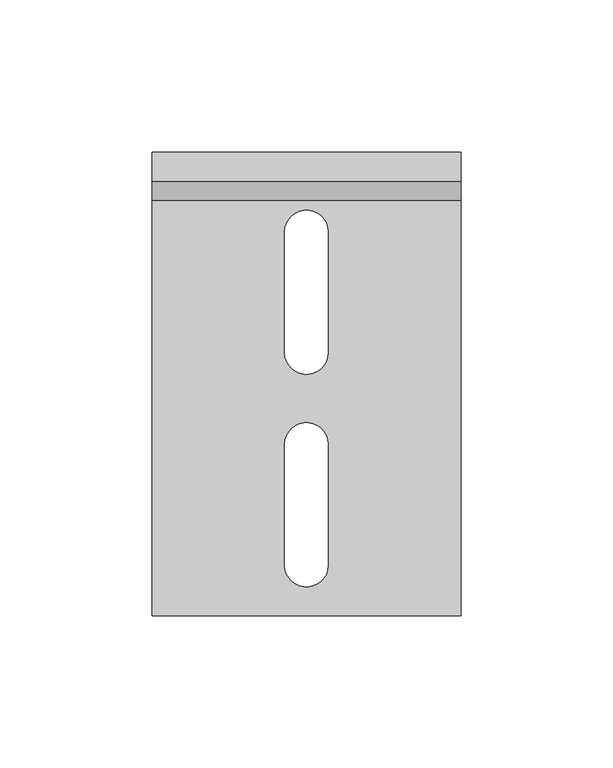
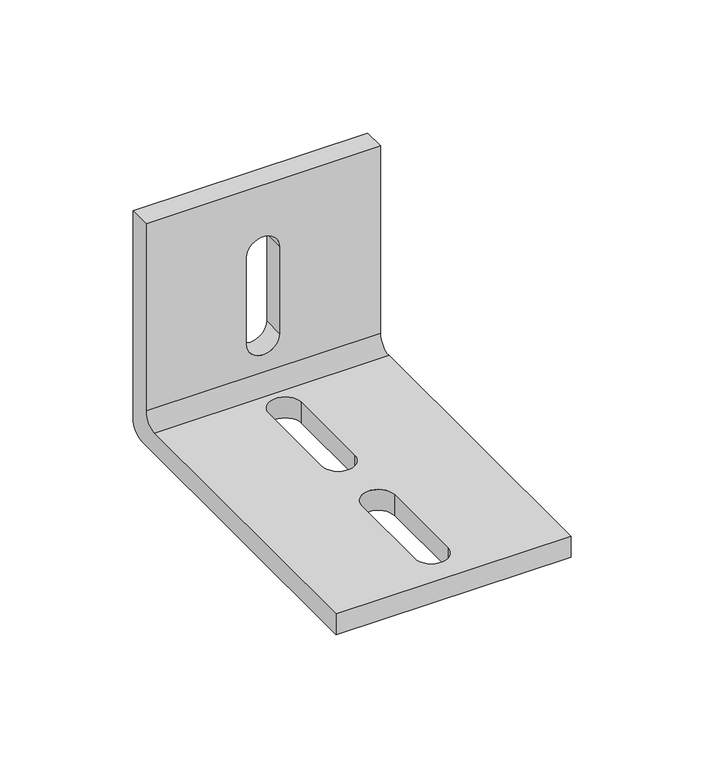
"""IFC4 building model written with IfcOpenShell, lengths in millimetres: proxy geometry, 14NSF-A14 : 14NSF-A14."""

from ifc_helpers import new_model, si_unit, frame, origin, place, context, project, spatial, polyline, circle_curve, source, transform, mapped, element, save
from ifc_brep_helpers import plane_surface, cylinder_surface, revolved_surface, advanced_brep


def generic_models_f0b3e273(model_context):
    return source(origin(), model_context, "Body", "AdvancedBrep", [
        advanced_brep(
        [(50.8, -152.4, 0.0), (50.8, -6.35, 0.0), (50.8, 0.0, 6.35), (50.8, 0.0, 101.6), (50.8, -9.525, 101.6), (50.8, -9.525, 15.875), (50.8, -15.875, 9.525), (50.8, -152.4, 9.525), (-50.8, -6.35, 0.0), (-50.8, -152.4, 0.0), (-50.8, -152.4, 9.525), (-50.8, -15.875, 9.525), (-50.8, -9.525, 15.875), (-50.8, -9.525, 101.6), (-50.8, 0.0, 101.6), (-50.8, 0.0, 6.35), (7.14375, -65.8874249, 0.0), (7.14375, -26.1875751, 0.0), (-7.14375, -26.1875751, 0.0), (-7.14375, -65.8874249, 0.0), (7.14375, -135.7374249, 0.0), (7.14375, -96.0375751, 0.0), (-7.14375, -96.0375751, 0.0), (-7.14375, -135.7374249, 0.0), (7.14375, 0.0, 30.9500751), (7.14375, 0.0, 70.6499249), (-7.14375, 0.0, 70.6499249), (-7.14375, 0.0, 30.9500751), (7.14375, -9.525, 70.6499249), (7.14375, -9.525, 30.9500751), (-7.14375, -9.525, 30.9500751), (-7.14375, -9.525, 70.6499249), (7.14375, -26.1875751, 9.525), (7.14375, -65.8874249, 9.525), (-7.14375, -65.8874249, 9.525), (-7.14375, -26.1875751, 9.525), (7.14375, -96.0375751, 9.525), (7.14375, -135.7374249, 9.525), (-7.14375, -135.7374249, 9.525), (-7.14375, -96.0375751, 9.525)],
        [
            (0, 1),
            (1, 2, circle_curve(frame((50.8, -6.35, 6.35), z_axis=(1.0, 0.0, 0.0), x_axis=(0.0, 1.0, 0.0)), 6.35)),
            (2, 3),
            (3, 4),
            (4, 5),
            (5, 6, circle_curve(frame((50.8, -15.875, 15.875), z_axis=(-1.0, 0.0, 0.0), x_axis=(0.0, 1.0, 0.0)), 6.35)),
            (6, 7),
            (7, 0),
            (8, 9),
            (9, 10),
            (10, 11),
            (11, 12, circle_curve(frame((-50.8, -15.875, 15.875), z_axis=(1.0, 0.0, 0.0), x_axis=(0.0, 1.0, 0.0)), 6.35)),
            (12, 13),
            (13, 14),
            (14, 15),
            (15, 8, circle_curve(frame((-50.8, -6.35, 6.35), z_axis=(-1.0, 0.0, 0.0), x_axis=(0.0, 1.0, 0.0)), 6.35)),
            (0, 9),
            (8, 1),
            (16, 17),
            (17, 18, circle_curve(frame((0.0, -26.1875751, 0.0), z_axis=(0.0, 0.0, 1.0), x_axis=(1.0, 0.0, 0.0)), 7.14375)),
            (18, 19),
            (19, 16, circle_curve(frame((0.0, -65.8874249, 0.0), z_axis=(0.0, 0.0, 1.0), x_axis=(1.0, 0.0, 0.0)), 7.14375)),
            (20, 21),
            (21, 22, circle_curve(frame((0.0, -96.0375751, 0.0), z_axis=(0.0, 0.0, 1.0), x_axis=(1.0, 0.0, 0.0)), 7.14375)),
            (22, 23),
            (23, 20, circle_curve(frame((0.0, -135.7374249, 0.0), z_axis=(0.0, 0.0, 1.0), x_axis=(1.0, 0.0, 0.0)), 7.14375)),
            (15, 2),
            (14, 3),
            (24, 25),
            (25, 26, circle_curve(frame((0.0, 0.0, 70.6499249), z_axis=(0.0, -1.0, 0.0), x_axis=(1.0, 0.0, 0.0)), 7.14375)),
            (26, 27),
            (27, 24, circle_curve(frame((0.0, 0.0, 30.9500751), z_axis=(0.0, -1.0, 0.0), x_axis=(1.0, 0.0, 0.0)), 7.14375)),
            (13, 4),
            (12, 5),
            (28, 29),
            (29, 30, circle_curve(frame((0.0, -9.525, 30.9500751), z_axis=(0.0, 1.0, 0.0), x_axis=(1.0, 0.0, 0.0)), 7.14375)),
            (30, 31),
            (31, 28, circle_curve(frame((0.0, -9.525, 70.6499249), z_axis=(0.0, 1.0, 0.0), x_axis=(1.0, 0.0, 0.0)), 7.14375)),
            (11, 6),
            (10, 7),
            (32, 33),
            (33, 34, circle_curve(frame((0.0, -65.8874249, 9.525), z_axis=(0.0, 0.0, -1.0), x_axis=(1.0, 0.0, 0.0)), 7.14375)),
            (34, 35),
            (35, 32, circle_curve(frame((0.0, -26.1875751, 9.525), z_axis=(0.0, 0.0, -1.0), x_axis=(1.0, 0.0, 0.0)), 7.14375)),
            (36, 37),
            (37, 38, circle_curve(frame((0.0, -135.7374249, 9.525), z_axis=(0.0, 0.0, -1.0), x_axis=(1.0, 0.0, 0.0)), 7.14375)),
            (38, 39),
            (39, 36, circle_curve(frame((0.0, -96.0375751, 9.525), z_axis=(0.0, 0.0, -1.0), x_axis=(1.0, 0.0, 0.0)), 7.14375)),
            (16, 33),
            (32, 17),
            (35, 18),
            (34, 19),
            (20, 37),
            (36, 21),
            (39, 22),
            (38, 23),
            (24, 29),
            (28, 25),
            (31, 26),
            (30, 27),
        ],
        [
            plane_surface(frame((50.8, -6.35, 0.0), z_axis=(1.0, 0.0, 0.0), x_axis=(0.0, 1.0, 0.0))),
            plane_surface(frame((-50.8, -6.35, 0.0), z_axis=(-1.0, 0.0, 0.0), x_axis=(0.0, -1.0, 0.0))),
            plane_surface(frame((50.8, -152.4, 0.0), z_axis=(0.0, 0.0, -1.0), x_axis=(-1.0, 0.0, 0.0))),
            cylinder_surface(frame((-50.8, -6.35, 6.35), z_axis=(1.0, 0.0, 0.0), x_axis=(0.0, 1.0, 0.0)), 6.35),
            plane_surface(frame((50.8, 0.0, 6.35), z_axis=(0.0, 1.0, 0.0), x_axis=(-1.0, 0.0, 0.0))),
            plane_surface(frame((50.8, 0.0, 101.6), z_axis=(0.0, 0.0, 1.0), x_axis=(-1.0, 0.0, 0.0))),
            plane_surface(frame((50.8, -9.525, 101.6), z_axis=(0.0, -1.0, 0.0), x_axis=(-1.0, 0.0, 0.0))),
            revolved_surface(polyline([(-50.8, -9.525, 15.875), (50.8, -9.525, 15.875)]), (-50.8, -15.875, 15.875), (-1.0, 0.0, 0.0)),
            plane_surface(frame((50.8, -15.875, 9.525), z_axis=(0.0, 0.0, 1.0), x_axis=(-1.0, 0.0, 0.0))),
            plane_surface(frame((50.8, -152.4, 9.525), z_axis=(0.0, -1.0, 0.0), x_axis=(-1.0, 0.0, 0.0))),
            plane_surface(frame((7.14375, -65.8874249, 12.7), z_axis=(-1.0, 0.0, 0.0), x_axis=(0.0, 0.0, -1.0))),
            revolved_surface(polyline([(7.14375, -26.1875751, 9.525), (7.14375, -26.1875751, 0.0)]), (0.0, -26.1875751, 0.0), (0.0, 0.0, 1.0)),
            plane_surface(frame((-7.14375, -26.1875751, 12.7), z_axis=(1.0, 0.0, 0.0), x_axis=(0.0, 0.0, -1.0))),
            revolved_surface(polyline([(7.14375, -65.8874249, 9.525), (7.14375, -65.8874249, 0.0)]), (0.0, -65.8874249, 0.0), (0.0, 0.0, 1.0)),
            plane_surface(frame((7.14375, -135.7374249, 12.7), z_axis=(-1.0, 0.0, 0.0), x_axis=(0.0, 0.0, -1.0))),
            revolved_surface(polyline([(7.14375, -96.0375751, 9.525), (7.14375, -96.0375751, 0.0)]), (0.0, -96.0375751, 0.0), (0.0, 0.0, 1.0)),
            plane_surface(frame((-7.14375, -96.0375751, 12.7), z_axis=(1.0, 0.0, 0.0), x_axis=(0.0, 0.0, -1.0))),
            revolved_surface(polyline([(7.14375, -135.7374249, 9.525), (7.14375, -135.7374249, 0.0)]), (0.0, -135.7374249, 0.0), (0.0, 0.0, 1.0)),
            plane_surface(frame((7.14375, -12.7, 30.9500751), z_axis=(-1.0, 0.0, 0.0), x_axis=(0.0, 1.0, 0.0))),
            revolved_surface(polyline([(7.14375, -9.525, 70.6499249), (7.14375, 0.0, 70.6499249)]), (0.0, 0.0, 70.6499249), (0.0, -1.0, 0.0)),
            plane_surface(frame((-7.14375, -12.7, 70.6499249), z_axis=(1.0, 0.0, 0.0), x_axis=(0.0, 1.0, 0.0))),
            revolved_surface(polyline([(7.14375, -9.525, 30.9500751), (7.14375, 0.0, 30.9500751)]), (0.0, 0.0, 30.9500751), (0.0, -1.0, 0.0)),
        ],
        [
            (0, [[1, 2, 3, 4, 5, 6, 7, 8]]),
            (1, [[9, 10, 11, 12, 13, 14, 15, 16]]),
            (2, [[-1, 17, -9, 18], [19, 20, 21, 22], [23, 24, 25, 26]]),
            (3, [[-2, -18, -16, 27]]),
            (4, [[-3, -27, -15, 28], [29, 30, 31, 32]]),
            (5, [[-4, -28, -14, 33]]),
            (6, [[-5, -33, -13, 34], [35, 36, 37, 38]]),
            (7, [[-6, -34, -12, 39]]),
            (8, [[-7, -39, -11, 40], [41, 42, 43, 44], [45, 46, 47, 48]]),
            (9, [[-8, -40, -10, -17]]),
            (10, [[-19, 49, -41, 50]]),
            (11, [[-20, -50, -44, 51]]),
            (12, [[-21, -51, -43, 52]]),
            (13, [[-22, -52, -42, -49]]),
            (14, [[-23, 53, -45, 54]]),
            (15, [[-24, -54, -48, 55]]),
            (16, [[-25, -55, -47, 56]]),
            (17, [[-26, -56, -46, -53]]),
            (18, [[57, -35, 58, -29]]),
            (19, [[-58, -38, 59, -30]]),
            (20, [[-59, -37, 60, -31]]),
            (21, [[-57, -32, -60, -36]]),
        ],
    ),
    ])


if __name__ == "__main__":
    model = new_model("IFC4")
    model_context = context("Model", 3, world=origin())
    ifc_project = project(units=[si_unit("LENGTHUNIT", "METRE", prefix="MILLI")], contexts=[model_context])
    site = spatial("IfcSite", under=ifc_project)
    building = spatial("IfcBuilding", under=site)
    placement = place(None, origin())
    generic_models_shape = generic_models_f0b3e273(model_context)
    element("IfcBuildingElementProxy", 1, Name="14NSF-A14 : 14NSF-A14", ObjectType="14NSF-A14 : 14NSF-A14", at=placement, inside=building, context=model_context, shape_type="MappedRepresentation", body=[
        mapped(generic_models_shape, transform((0.0, 0.0, 0.0), x_axis=(1.0, 0.0, 0.0), y_axis=(0.0, 1.0, 0.0), z_axis=(0.0, 0.0, 1.0))),
    ])
    save(model, "model.ifc")
